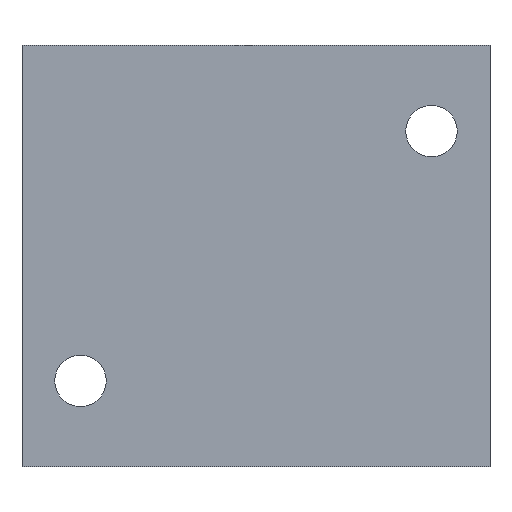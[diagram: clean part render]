
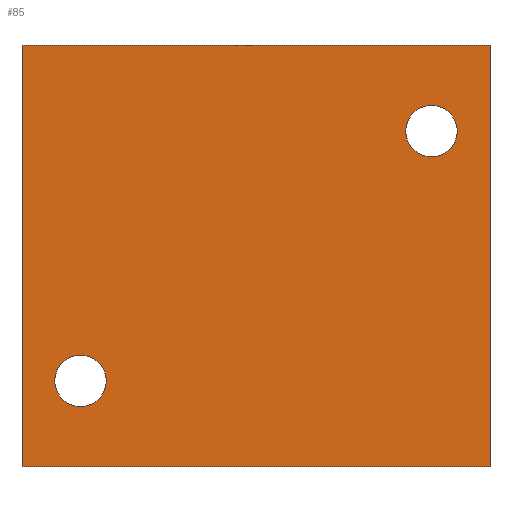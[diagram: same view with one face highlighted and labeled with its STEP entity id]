
A CAD part, front view. The second image highlights one B-rep face of the part: STEP entity #85.
In plain terms, the highlighted planar face has unit normal (0, -1, 0).
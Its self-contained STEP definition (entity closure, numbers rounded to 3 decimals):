
#85=ADVANCED_FACE('',(#189,#190,#191),#192,.T.);
#189=FACE_BOUND('',#441,.T.);
#190=FACE_BOUND('',#442,.T.);
#191=FACE_OUTER_BOUND('',#443,.T.);
#192=PLANE('',#444);
#441=EDGE_LOOP('',(#750));
#442=EDGE_LOOP('',(#751));
#443=EDGE_LOOP('',(#752,#753,#754,#755));
#444=AXIS2_PLACEMENT_3D('',#756,#757,#758);
#750=ORIENTED_EDGE('',*,*,#1294,.T.);
#751=ORIENTED_EDGE('',*,*,#1295,.T.);
#752=ORIENTED_EDGE('',*,*,#1296,.F.);
#753=ORIENTED_EDGE('',*,*,#1297,.F.);
#754=ORIENTED_EDGE('',*,*,#1298,.T.);
#755=ORIENTED_EDGE('',*,*,#1292,.T.);
#756=CARTESIAN_POINT('',(30.0,-25.0,27.0));
#757=DIRECTION('',(0.0,-1.0,0.0));
#758=DIRECTION('',(1.0,0.0,0.0));
#1292=EDGE_CURVE('',#1483,#1481,#1484,.T.);
#1294=EDGE_CURVE('',#1486,#1486,#1487,.T.);
#1295=EDGE_CURVE('',#1488,#1488,#1489,.T.);
#1296=EDGE_CURVE('',#1490,#1481,#1491,.T.);
#1297=EDGE_CURVE('',#1492,#1490,#1493,.T.);
#1298=EDGE_CURVE('',#1492,#1483,#1494,.T.);
#1481=VERTEX_POINT('',#1815);
#1483=VERTEX_POINT('',#1818);
#1484=LINE('',#1819,#1820);
#1486=VERTEX_POINT('',#1823);
#1487=CIRCLE('',#1824,3.3);
#1488=VERTEX_POINT('',#1825);
#1489=CIRCLE('',#1826,3.3);
#1490=VERTEX_POINT('',#1827);
#1491=LINE('',#1828,#1829);
#1492=VERTEX_POINT('',#1830);
#1493=LINE('',#1831,#1832);
#1494=LINE('',#1833,#1834);
#1815=CARTESIAN_POINT('',(-30.0,-25.0,-27.0));
#1818=CARTESIAN_POINT('',(-30.0,-25.0,27.0));
#1819=CARTESIAN_POINT('',(-30.0,-25.0,27.0));
#1820=VECTOR('',#2091,1.0);
#1823=CARTESIAN_POINT('',(22.5,-25.0,19.3));
#1824=AXIS2_PLACEMENT_3D('',#2093,#2094,#2095);
#1825=CARTESIAN_POINT('',(-22.5,-25.0,-19.3));
#1826=AXIS2_PLACEMENT_3D('',#2096,#2097,#2098);
#1827=CARTESIAN_POINT('',(30.0,-25.0,-27.0));
#1828=CARTESIAN_POINT('',(30.0,-25.0,-27.0));
#1829=VECTOR('',#2099,1.0);
#1830=CARTESIAN_POINT('',(30.0,-25.0,27.0));
#1831=CARTESIAN_POINT('',(30.0,-25.0,27.0));
#1832=VECTOR('',#2100,1.0);
#1833=CARTESIAN_POINT('',(30.0,-25.0,27.0));
#1834=VECTOR('',#2101,1.0);
#2091=DIRECTION('',(0.0,0.0,-1.0));
#2093=CARTESIAN_POINT('',(22.5,-25.0,16.0));
#2094=DIRECTION('',(0.0,1.0,0.0));
#2095=DIRECTION('',(0.,0.0,1.0));
#2096=CARTESIAN_POINT('',(-22.5,-25.0,-16.0));
#2097=DIRECTION('',(0.0,1.0,0.0));
#2098=DIRECTION('',(0.0,0.0,-1.0));
#2099=DIRECTION('',(-1.0,0.0,0.0));
#2100=DIRECTION('',(0.0,0.0,-1.0));
#2101=DIRECTION('',(-1.0,0.0,0.0));
